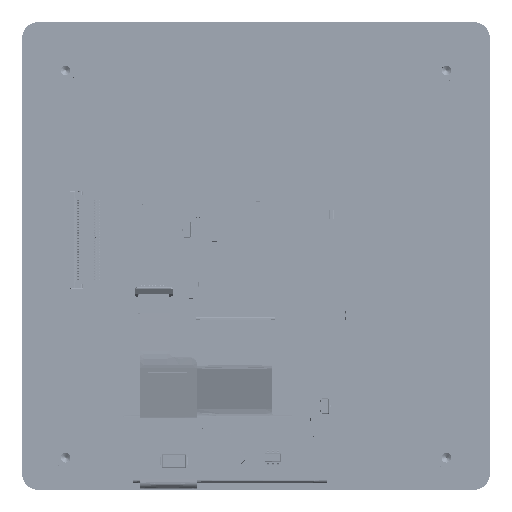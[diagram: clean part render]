
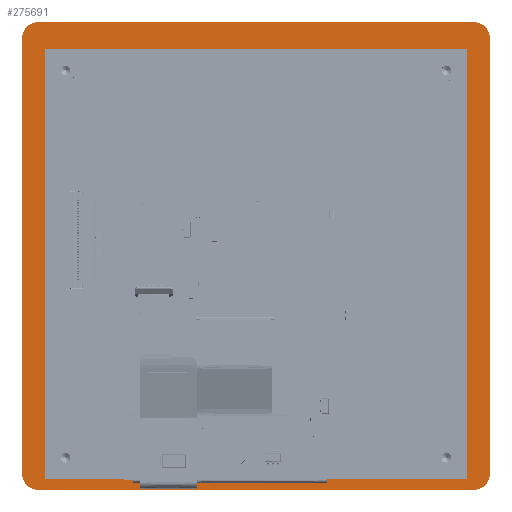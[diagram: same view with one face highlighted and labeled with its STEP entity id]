
A CAD part, top view. The second image highlights one B-rep face of the part: STEP entity #275691.
In plain terms, the highlighted planar face has unit normal (0, 0, 1) as drawn and (0, 0, -1) by its records, which use the part's own axes.
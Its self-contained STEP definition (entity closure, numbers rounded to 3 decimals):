
#914 = LINE ( 'NONE', #340492, #401682 ) ;
#1695 = EDGE_CURVE ( 'NONE', #197169, #100007, #15608, .T. ) ;
#15608 = CIRCLE ( 'NONE', #356332, 3. ) ;
#17622 = EDGE_CURVE ( 'NONE', #310953, #197169, #257569, .T. ) ;
#20163 = CARTESIAN_POINT ( 'NONE',  ( 3., -83., 0. ) ) ;
#22244 = AXIS2_PLACEMENT_3D ( 'NONE', #82892, #248391, #52372 ) ;
#28871 = CARTESIAN_POINT ( 'NONE',  ( 86., -83., 0. ) ) ;
#33350 = ORIENTED_EDGE ( 'NONE', *, *, #166128, .F. ) ;
#38785 = DIRECTION ( 'NONE',  ( 0., 1., 0. ) ) ;
#45418 = DIRECTION ( 'NONE',  ( 1., 0., 0. ) ) ;
#48541 = EDGE_CURVE ( 'NONE', #399852, #65556, #372298, .T. ) ;
#52372 = DIRECTION ( 'NONE',  ( 1., 0., 0. ) ) ;
#55902 = VERTEX_POINT ( 'NONE', #111130 ) ;
#55991 = CARTESIAN_POINT ( 'NONE',  ( 86., -3., 0. ) ) ;
#65556 = VERTEX_POINT ( 'NONE', #117584 ) ;
#73907 = DIRECTION ( 'NONE',  ( 0., -1., 0. ) ) ;
#75889 = LINE ( 'NONE', #151980, #374862 ) ;
#79326 = ORIENTED_EDGE ( 'NONE', *, *, #17622, .F. ) ;
#82851 = ORIENTED_EDGE ( 'NONE', *, *, #390933, .F. ) ;
#82892 = CARTESIAN_POINT ( 'NONE',  ( 83., -83., 0. ) ) ;
#87618 = DIRECTION ( 'NONE',  ( 1., 0., 0. ) ) ;
#87676 = ORIENTED_EDGE ( 'NONE', *, *, #274685, .F. ) ;
#88749 = CARTESIAN_POINT ( 'NONE',  ( 81.83, -83.98, 0. ) ) ;
#91528 = VERTEX_POINT ( 'NONE', #28871 ) ;
#93000 = CARTESIAN_POINT ( 'NONE',  ( 83., -3., 0. ) ) ;
#97701 = VECTOR ( 'NONE', #150655, 1000. ) ;
#100007 = VERTEX_POINT ( 'NONE', #237679 ) ;
#104466 = VECTOR ( 'NONE', #155225, 1000. ) ;
#111130 = CARTESIAN_POINT ( 'NONE',  ( 3., 0., 0. ) ) ;
#113340 = CARTESIAN_POINT ( 'NONE',  ( 0., -3., 0. ) ) ;
#117584 = CARTESIAN_POINT ( 'NONE',  ( 81.83, -83.98, 0. ) ) ;
#118154 = FACE_BOUND ( 'NONE', #430293, .T. ) ;
#119679 = VECTOR ( 'NONE', #38785, 1000. ) ;
#127875 = DIRECTION ( 'NONE',  ( 1., 0., 0. ) ) ;
#129407 = CARTESIAN_POINT ( 'NONE',  ( 4.17, -5.01, 0. ) ) ;
#134739 = CARTESIAN_POINT ( 'NONE',  ( 3., -3., 0. ) ) ;
#135941 = EDGE_CURVE ( 'NONE', #273221, #55902, #146366, .T. ) ;
#146366 = LINE ( 'NONE', #220267, #97701 ) ;
#150655 = DIRECTION ( 'NONE',  ( -1., 0., 0. ) ) ;
#151980 = CARTESIAN_POINT ( 'NONE',  ( 3., -86., 0. ) ) ;
#153923 = ORIENTED_EDGE ( 'NONE', *, *, #381522, .F. ) ;
#155225 = DIRECTION ( 'NONE',  ( 0., -1., 0. ) ) ;
#166128 = EDGE_CURVE ( 'NONE', #427146, #91528, #189161, .T. ) ;
#173569 = VECTOR ( 'NONE', #73907, 1000. ) ;
#175328 = VECTOR ( 'NONE', #389273, 1000. ) ;
#176013 = DIRECTION ( 'NONE',  ( 0., 0., 1. ) ) ;
#187426 = EDGE_CURVE ( 'NONE', #100007, #427146, #75889, .T. ) ;
#189161 = CIRCLE ( 'NONE', #22244, 3. ) ;
#189988 = CARTESIAN_POINT ( 'NONE',  ( 4.17, -83.98, 0. ) ) ;
#197169 = VERTEX_POINT ( 'NONE', #350486 ) ;
#198615 = VERTEX_POINT ( 'NONE', #55991 ) ;
#217973 = CARTESIAN_POINT ( 'NONE',  ( 83., 0., 0. ) ) ;
#220267 = CARTESIAN_POINT ( 'NONE',  ( 3., 0., 0. ) ) ;
#237679 = CARTESIAN_POINT ( 'NONE',  ( 3., -86., 0. ) ) ;
#242558 = EDGE_CURVE ( 'NONE', #65556, #263046, #258589, .T. ) ;
#248391 = DIRECTION ( 'NONE',  ( 0., 0., 1. ) ) ;
#249886 = CIRCLE ( 'NONE', #312595, 3. ) ;
#250335 = VERTEX_POINT ( 'NONE', #129407 ) ;
#251012 = PLANE ( 'NONE',  #341929 ) ;
#257569 = LINE ( 'NONE', #294465, #104466 ) ;
#258589 = LINE ( 'NONE', #88749, #175328 ) ;
#263046 = VERTEX_POINT ( 'NONE', #189988 ) ;
#273221 = VERTEX_POINT ( 'NONE', #217973 ) ;
#274685 = EDGE_CURVE ( 'NONE', #91528, #198615, #332870, .T. ) ;
#275691 = ADVANCED_FACE ( 'NONE', ( #283680, #118154 ), #251012, .F. ) ;
#275959 = EDGE_CURVE ( 'NONE', #198615, #273221, #425488, .T. ) ;
#283680 = FACE_OUTER_BOUND ( 'NONE', #321640, .T. ) ;
#284285 = LINE ( 'NONE', #421357, #302721 ) ;
#287962 = ORIENTED_EDGE ( 'NONE', *, *, #187426, .F. ) ;
#294465 = CARTESIAN_POINT ( 'NONE',  ( 0., -3., 0. ) ) ;
#302721 = VECTOR ( 'NONE', #351764, 1000. ) ;
#303489 = DIRECTION ( 'NONE',  ( 0., 1., 0. ) ) ;
#308824 = DIRECTION ( 'NONE',  ( 1., 0., 0. ) ) ;
#310953 = VERTEX_POINT ( 'NONE', #113340 ) ;
#312357 = ORIENTED_EDGE ( 'NONE', *, *, #135941, .F. ) ;
#312595 = AXIS2_PLACEMENT_3D ( 'NONE', #134739, #176013, #308824 ) ;
#314221 = ORIENTED_EDGE ( 'NONE', *, *, #342848, .F. ) ;
#321640 = EDGE_LOOP ( 'NONE', ( #425095, #79326, #314221, #312357, #349730, #87676, #33350, #287962 ) ) ;
#331075 = ORIENTED_EDGE ( 'NONE', *, *, #48541, .F. ) ;
#332870 = LINE ( 'NONE', #398240, #119679 ) ;
#340492 = CARTESIAN_POINT ( 'NONE',  ( 4.17, -5.01, 0. ) ) ;
#341929 = AXIS2_PLACEMENT_3D ( 'NONE', #20163, #418637, #87618 ) ;
#342848 = EDGE_CURVE ( 'NONE', #55902, #310953, #249886, .T. ) ;
#343763 = CARTESIAN_POINT ( 'NONE',  ( 3., -83., 0. ) ) ;
#349730 = ORIENTED_EDGE ( 'NONE', *, *, #275959, .F. ) ;
#350486 = CARTESIAN_POINT ( 'NONE',  ( 0., -83., 0. ) ) ;
#351764 = DIRECTION ( 'NONE',  ( 1., 0., 0. ) ) ;
#352275 = DIRECTION ( 'NONE',  ( -1., 0., 0. ) ) ;
#355667 = CARTESIAN_POINT ( 'NONE',  ( 83., -86., 0. ) ) ;
#356332 = AXIS2_PLACEMENT_3D ( 'NONE', #343763, #411288, #45418 ) ;
#360827 = DIRECTION ( 'NONE',  ( 0., 0., 1. ) ) ;
#366147 = CARTESIAN_POINT ( 'NONE',  ( 81.83, -5.01, 0. ) ) ;
#372298 = LINE ( 'NONE', #407115, #173569 ) ;
#374862 = VECTOR ( 'NONE', #127875, 1000. ) ;
#381522 = EDGE_CURVE ( 'NONE', #263046, #250335, #914, .T. ) ;
#387275 = ORIENTED_EDGE ( 'NONE', *, *, #242558, .F. ) ;
#389273 = DIRECTION ( 'NONE',  ( -1., 0., 0. ) ) ;
#390933 = EDGE_CURVE ( 'NONE', #250335, #399852, #284285, .T. ) ;
#398240 = CARTESIAN_POINT ( 'NONE',  ( 86., -3., 0. ) ) ;
#399852 = VERTEX_POINT ( 'NONE', #366147 ) ;
#401682 = VECTOR ( 'NONE', #303489, 1000. ) ;
#404735 = AXIS2_PLACEMENT_3D ( 'NONE', #93000, #360827, #352275 ) ;
#407115 = CARTESIAN_POINT ( 'NONE',  ( 81.83, -5.01, 0. ) ) ;
#411288 = DIRECTION ( 'NONE',  ( 0., 0., 1. ) ) ;
#418637 = DIRECTION ( 'NONE',  ( 0., 0., 1. ) ) ;
#421357 = CARTESIAN_POINT ( 'NONE',  ( 81.83, -5.01, 0. ) ) ;
#425095 = ORIENTED_EDGE ( 'NONE', *, *, #1695, .F. ) ;
#425488 = CIRCLE ( 'NONE', #404735, 3. ) ;
#427146 = VERTEX_POINT ( 'NONE', #355667 ) ;
#430293 = EDGE_LOOP ( 'NONE', ( #331075, #82851, #153923, #387275 ) ) ;
